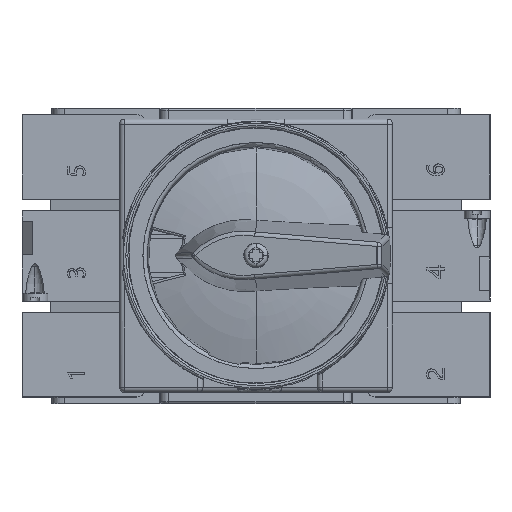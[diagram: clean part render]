
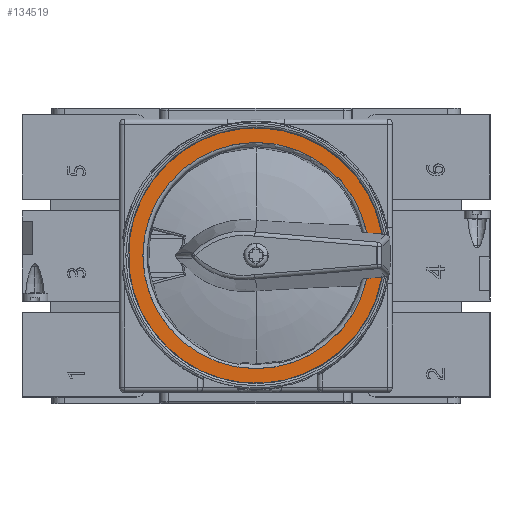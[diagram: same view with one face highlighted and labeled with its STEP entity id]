
A CAD part, top view. The second image highlights one B-rep face of the part: STEP entity #134519.
In plain terms, the highlighted planar face has unit normal (0, 0, 1).
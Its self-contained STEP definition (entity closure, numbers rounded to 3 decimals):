
#970 = AXIS2_PLACEMENT_3D ( 'NONE', #113769, #53459, #141737 ) ;
#1077 = CARTESIAN_POINT ( 'NONE',  ( -27.847, 9.957, 62.352 ) ) ;
#1955 = VERTEX_POINT ( 'NONE', #65673 ) ;
#4644 = DIRECTION ( 'NONE',  ( -1., 0., 0. ) ) ;
#12257 = VECTOR ( 'NONE', #134626, 1000. ) ;
#12955 = AXIS2_PLACEMENT_3D ( 'NONE', #142448, #25779, #100193 ) ;
#25779 = DIRECTION ( 'NONE',  ( 0., 0., 1. ) ) ;
#30474 = CIRCLE ( 'NONE', #169809, 26.5 ) ;
#40012 = PLANE ( 'NONE',  #12955 ) ;
#40061 = FACE_OUTER_BOUND ( 'NONE', #62318, .T. ) ;
#40132 = DIRECTION ( 'NONE',  ( 0., 0., -1. ) ) ;
#47455 = CARTESIAN_POINT ( 'NONE',  ( -59.392, 5.003, 62.352 ) ) ;
#52404 = EDGE_CURVE ( 'NONE', #130656, #135562, #154205, .T. ) ;
#53459 = DIRECTION ( 'NONE',  ( 0., 0., -1. ) ) ;
#62318 = EDGE_LOOP ( 'NONE', ( #105720, #180390, #153160, #103077, #102985, #100480 ) ) ;
#64257 = DIRECTION ( 'NONE',  ( 0., 0., -1. ) ) ;
#65673 = CARTESIAN_POINT ( 'NONE',  ( -33.429, 10.311, 62.352 ) ) ;
#71050 = DIRECTION ( 'NONE',  ( -0.998, -0.063, 0. ) ) ;
#71683 = CARTESIAN_POINT ( 'NONE',  ( -59.347, -1.951, 62.352 ) ) ;
#76969 = VECTOR ( 'NONE', #71050, 1000. ) ;
#83132 = CARTESIAN_POINT ( 'NONE',  ( -89.092, 8.455, 62.352 ) ) ;
#84914 = CIRCLE ( 'NONE', #970, 29.9 ) ;
#86329 = EDGE_CURVE ( 'NONE', #100000, #130656, #124796, .T. ) ;
#90129 = CARTESIAN_POINT ( 'NONE',  ( -29.928, 10.089, 62.352 ) ) ;
#95968 = CARTESIAN_POINT ( 'NONE',  ( -33.429, -0.305, 62.352 ) ) ;
#100000 = VERTEX_POINT ( 'NONE', #184080 ) ;
#100193 = DIRECTION ( 'NONE',  ( 1., 0., 0. ) ) ;
#100343 = LINE ( 'NONE', #1077, #12257 ) ;
#100480 = ORIENTED_EDGE ( 'NONE', *, *, #136786, .F. ) ;
#102985 = ORIENTED_EDGE ( 'NONE', *, *, #110874, .T. ) ;
#103077 = ORIENTED_EDGE ( 'NONE', *, *, #158649, .T. ) ;
#105720 = ORIENTED_EDGE ( 'NONE', *, *, #52404, .F. ) ;
#110874 = EDGE_CURVE ( 'NONE', #1955, #184539, #100343, .T. ) ;
#113769 = CARTESIAN_POINT ( 'NONE',  ( -59.392, 5.003, 62.352 ) ) ;
#117133 = LINE ( 'NONE', #71683, #76969 ) ;
#124796 = CIRCLE ( 'NONE', #127969, 29.9 ) ;
#127969 = AXIS2_PLACEMENT_3D ( 'NONE', #47455, #64257, #4644 ) ;
#130656 = VERTEX_POINT ( 'NONE', #175481 ) ;
#134519 = ADVANCED_FACE ( 'NONE', ( #40061 ), #40012, .T. ) ;
#134626 = DIRECTION ( 'NONE',  ( 0.998, -0.063, 0. ) ) ;
#135562 = VERTEX_POINT ( 'NONE', #83132 ) ;
#136786 = EDGE_CURVE ( 'NONE', #135562, #184539, #84914, .T. ) ;
#140420 = DIRECTION ( 'NONE',  ( 0., 1., 0. ) ) ;
#141737 = DIRECTION ( 'NONE',  ( -1., 0., 0. ) ) ;
#142448 = CARTESIAN_POINT ( 'NONE',  ( -59.392, -24.897, 62.352 ) ) ;
#145146 = CARTESIAN_POINT ( 'NONE',  ( -59.392, 5.003, 62.352 ) ) ;
#153160 = ORIENTED_EDGE ( 'NONE', *, *, #185945, .T. ) ;
#154205 = LINE ( 'NONE', #169564, #172789 ) ;
#158649 = EDGE_CURVE ( 'NONE', #185291, #1955, #30474, .T. ) ;
#169564 = CARTESIAN_POINT ( 'NONE',  ( -89.092, -24.897, 62.352 ) ) ;
#169809 = AXIS2_PLACEMENT_3D ( 'NONE', #145146, #40132, #174929 ) ;
#172789 = VECTOR ( 'NONE', #140420, 1000. ) ;
#174929 = DIRECTION ( 'NONE',  ( 1., 0., 0. ) ) ;
#175481 = CARTESIAN_POINT ( 'NONE',  ( -89.092, 1.55, 62.352 ) ) ;
#180390 = ORIENTED_EDGE ( 'NONE', *, *, #86329, .F. ) ;
#184080 = CARTESIAN_POINT ( 'NONE',  ( -29.928, -0.083, 62.352 ) ) ;
#184539 = VERTEX_POINT ( 'NONE', #90129 ) ;
#185291 = VERTEX_POINT ( 'NONE', #95968 ) ;
#185945 = EDGE_CURVE ( 'NONE', #100000, #185291, #117133, .T. ) ;
